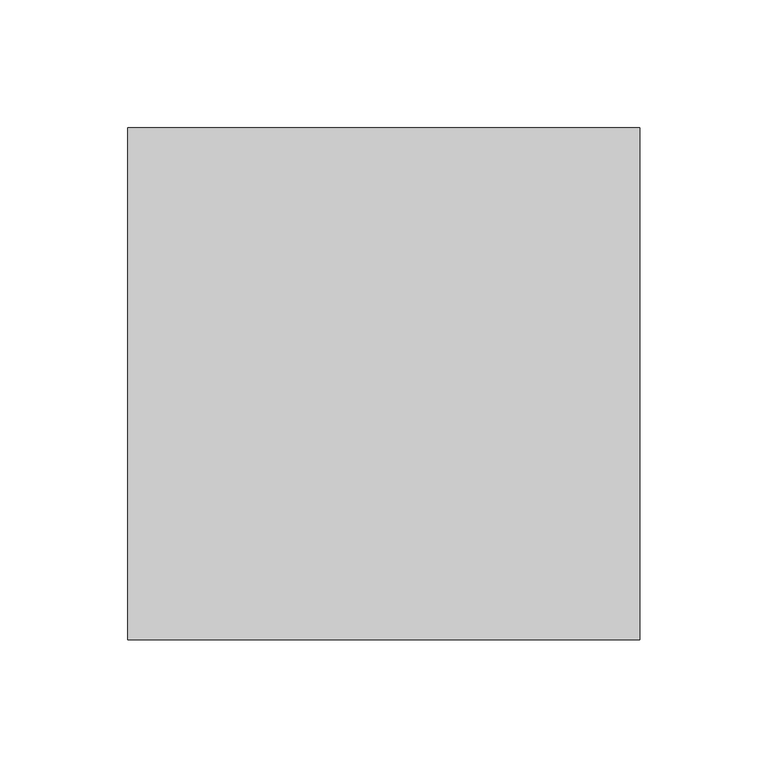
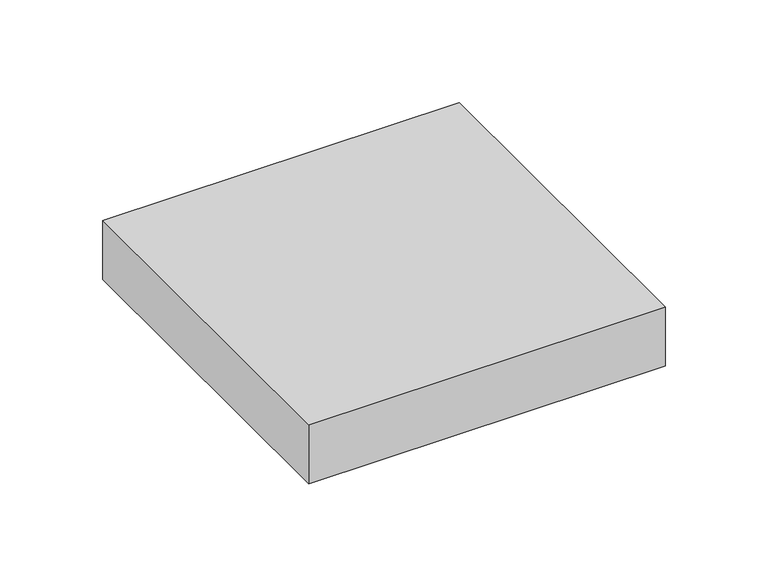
"""IFC4 building model written with IfcOpenShell, lengths in millimetres: furniture geometry, Pixel_Multiple : Pixel_Multiple."""

from ifc_helpers import new_model, si_unit, origin, origin_with_axes, place, context, project, spatial, polyline, outline, extrude, source, transform, mapped, element, save


def furniture_6717f674(model_context):
    return source(origin(), model_context, "Body", "SweptSolid", [
        extrude(outline(polyline([(200.0, 0.0), (0.0, 0.0), (0.0, 200.0), (200.0, 200.0), (200.0, 0.0)])), origin_with_axes(), (0.0, 0.0, 1.0), 35.0),
    ])


if __name__ == "__main__":
    model = new_model("IFC4")
    model_context = context("Model", 3, world=origin())
    ifc_project = project(units=[si_unit("LENGTHUNIT", "METRE", prefix="MILLI")], contexts=[model_context])
    site = spatial("IfcSite", under=ifc_project)
    building = spatial("IfcBuilding", under=site)
    placement = place(None, origin())
    furniture_shape = furniture_6717f674(model_context)
    element("IfcFurniture", 1, ObjectType="Pixel_Multiple : Pixel_Multiple", at=placement, inside=building, context=model_context, shape_type="MappedRepresentation", body=[
        mapped(furniture_shape, transform((0.0, 0.0, 0.0), x_axis=(1.0, 0.0, 0.0), y_axis=(0.0, 1.0, 0.0), z_axis=(0.0, 0.0, 1.0))),
    ])
    save(model, "model.ifc")
